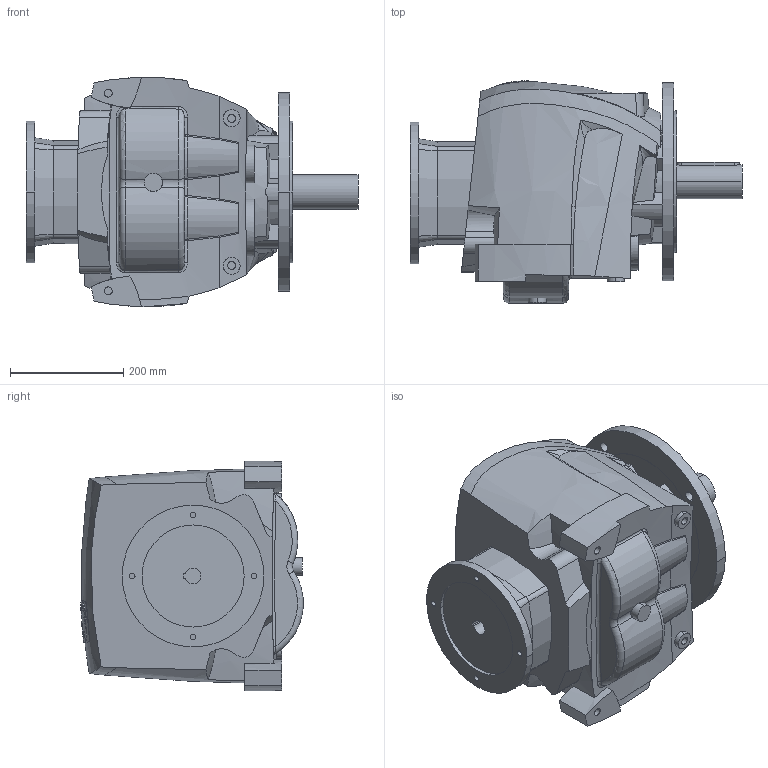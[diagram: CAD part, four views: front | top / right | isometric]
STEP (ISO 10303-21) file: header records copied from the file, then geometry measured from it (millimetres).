
FILE_DESCRIPTION((''),'2;1');
FILE_NAME('R60_350_PAM100112','2013-12-23T',('Luca'),(''),'PRO/ENGINEER BY PARAMETRIC TECHNOLOGY CORPORATION, 2008230','PRO/ENGINEER BY PARAMETRIC TECHNOLOGY CORPORATION, 2008230','');
FILE_SCHEMA(('CONFIG_CONTROL_DESIGN'));
Length unit declared in the file: millimetre
Products named in the file (1): R60_350_PAM100112
Bounding box: 585.5 x 392.1 x 404.24 mm (x, y, z)
Volume: 41223680.2 mm3; surface area: 1001496.3 mm2
Topology: 1 solids, 7 shells, 455 faces, 1186 edges, 783 vertices
Faces by surface type: plane 170, cylinder 155, bspline 96, cone 15, torus 14, sphere 4, extrusion 1
Entity records: 19379 total; most frequent: CARTESIAN_POINT 8996, ORIENTED_EDGE 2368, DIRECTION 1774, EDGE_CURVE 1184, VERTEX_POINT 783, AXIS2_PLACEMENT_3D 648, EDGE_LOOP 511, VECTOR 478
